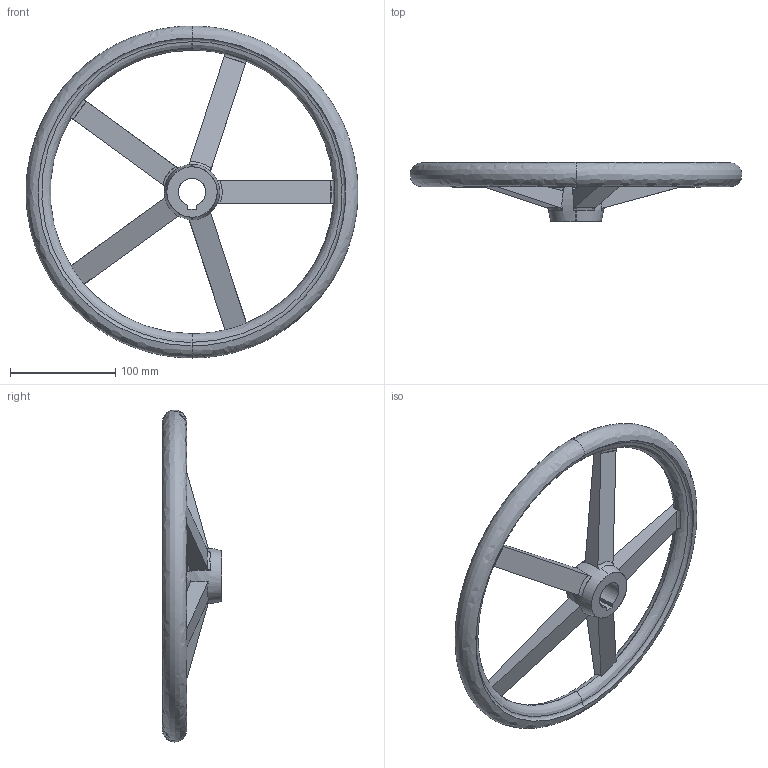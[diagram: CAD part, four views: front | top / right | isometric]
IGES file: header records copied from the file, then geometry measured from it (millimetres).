
Start section: SolidWorks IGES file using analytic representation for surfaces
Global section: file name: C:\Users\IanO\Desktop\Temp File\Process pending\77120_v2\77120_v2_20171108_IGES\77120.W0145.igs; native system: SolidWorks 2017; preprocessor: SolidWorks 2017; author: IanO; date: 171108.083240; units: millimetre
Bounding box: 315 x 56 x 315 mm (x, y, z)
Surface area: 112926.4 mm2 (no closed solid volume)
Topology: 0 solids, 0 shells, 53 faces, 1134 edges, 1127 vertices
Faces by surface type: bspline 52, revolution 1
